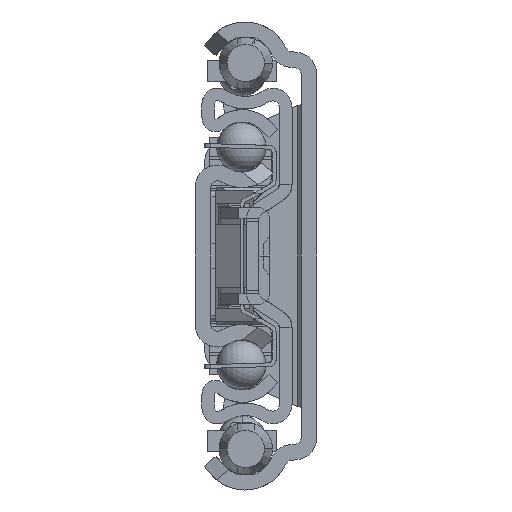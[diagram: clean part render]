
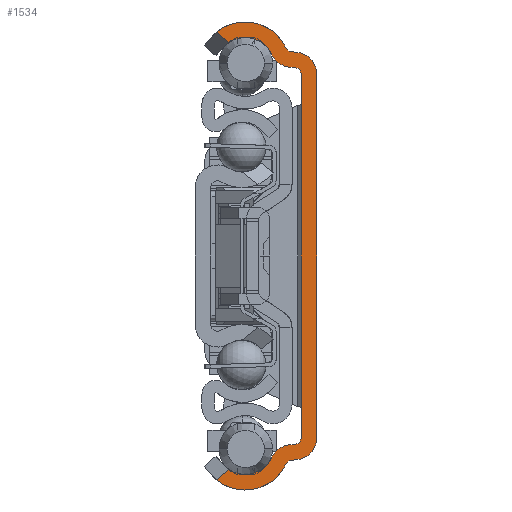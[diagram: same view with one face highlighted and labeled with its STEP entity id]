
A CAD part, left-side view. The second image highlights one B-rep face of the part: STEP entity #1534.
In plain terms, the highlighted planar face has unit normal (-1, 0, 0).
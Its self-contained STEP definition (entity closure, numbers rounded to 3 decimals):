
#1=DIRECTION('',(0.,-0.769,-0.639));
#2=VECTOR('',#1,2.575);
#3=CARTESIAN_POINT('',(0.,16.079,36.021));
#4=LINE('',#3,#2);
#5=CARTESIAN_POINT('',(0.,11.5,30.4));
#6=DIRECTION('',(1.,0.,0.));
#7=DIRECTION('',(0.,0.632,0.775));
#8=AXIS2_PLACEMENT_3D('',#5,#6,#7);
#10=DIRECTION('',(0.,-0.996,-0.087));
#11=VECTOR('',#10,0.904);
#12=CARTESIAN_POINT('',(0.,4.095,32.858));
#13=LINE('',#12,#11);
#14=CARTESIAN_POINT('',(0.,3.5,29.293));
#15=DIRECTION('',(-1.,0.,0.));
#16=DIRECTION('',(0.,-1.,0.));
#17=AXIS2_PLACEMENT_3D('',#14,#15,#16);
#19=DIRECTION('',(0.,0.,-1.));
#20=VECTOR('',#19,58.586);
#21=CARTESIAN_POINT('',(0.,0.,29.293));
#22=LINE('',#21,#20);
#23=CARTESIAN_POINT('',(0.,3.5,-29.293));
#24=DIRECTION('',(-1.,0.,0.));
#25=DIRECTION('',(0.,-0.087,-0.996));
#26=AXIS2_PLACEMENT_3D('',#23,#24,#25);
#28=DIRECTION('',(0.,0.996,-0.087));
#29=VECTOR('',#28,0.904);
#30=CARTESIAN_POINT('',(0.,3.195,-32.78));
#31=LINE('',#30,#29);
#32=CARTESIAN_POINT('',(0.,11.5,-30.4));
#33=DIRECTION('',(1.,0.,0.));
#34=DIRECTION('',(0.,-0.908,-0.419));
#35=AXIS2_PLACEMENT_3D('',#32,#33,#34);
#37=DIRECTION('',(0.,0.769,-0.639));
#38=VECTOR('',#37,2.575);
#39=CARTESIAN_POINT('',(0.,14.098,-34.377));
#40=LINE('',#39,#38);
#41=CARTESIAN_POINT('',(0.,11.5,-30.4));
#42=DIRECTION('',(-1.,0.,0.));
#43=DIRECTION('',(0.,0.547,-0.837));
#44=AXIS2_PLACEMENT_3D('',#41,#42,#43);
#46=CARTESIAN_POINT('',(0.,4.008,-33.854));
#47=DIRECTION('',(-1.,0.,0.));
#48=DIRECTION('',(0.,0.087,0.996));
#49=AXIS2_PLACEMENT_3D('',#46,#47,#48);
#51=DIRECTION('',(0.,-0.996,0.087));
#52=VECTOR('',#51,0.904);
#53=CARTESIAN_POINT('',(0.,4.313,-30.368));
#54=LINE('',#53,#52);
#55=DIRECTION('',(0.,0.,1.));
#56=VECTOR('',#55,58.586);
#57=CARTESIAN_POINT('',(0.,2.5,-29.293));
#58=LINE('',#57,#56);
#59=DIRECTION('',(0.,0.996,0.087));
#60=VECTOR('',#59,0.904);
#61=CARTESIAN_POINT('',(0.,3.413,30.289));
#62=LINE('',#61,#60);
#63=CARTESIAN_POINT('',(0.,4.008,33.854));
#64=DIRECTION('',(-1.,0.,0.));
#65=DIRECTION('',(0.,0.908,-0.419));
#66=AXIS2_PLACEMENT_3D('',#63,#64,#65);
#68=CARTESIAN_POINT('',(0.,11.5,30.4));
#69=DIRECTION('',(-1.,0.,0.));
#70=DIRECTION('',(0.,-0.908,0.419));
#71=AXIS2_PLACEMENT_3D('',#68,#69,#70);
#73=CARTESIAN_POINT('',(0.,14.098,34.377));
#121=CARTESIAN_POINT('',(0.,3.5,29.293));
#122=DIRECTION('',(1.,0.,0.));
#123=DIRECTION('',(0.,-0.087,0.996));
#124=AXIS2_PLACEMENT_3D('',#121,#122,#123);
#704=CARTESIAN_POINT('',(0.,16.079,36.021));
#770=CARTESIAN_POINT('',(0.,16.079,
-36.021));
#824=CARTESIAN_POINT('',(0.,14.098,
-34.377));
#1113=CARTESIAN_POINT('',(0.,3.5,-29.293));
#1114=DIRECTION('',(1.,0.,0.));
#1115=DIRECTION('',(0.,-1.,0.));
#1116=AXIS2_PLACEMENT_3D('',#1113,#1114,#1115);
#1123=CARTESIAN_POINT('',(0.,4.008,-33.854));
#1124=DIRECTION('',(1.,0.,0.));
#1125=DIRECTION('',(0.,0.908,0.419));
#1126=AXIS2_PLACEMENT_3D('',#1123,#1124,#1125);
#1141=CARTESIAN_POINT('',(0.,4.008,33.854));
#1142=DIRECTION('',(1.,0.,0.));
#1143=DIRECTION('',(0.,0.087,-0.996));
#1144=AXIS2_PLACEMENT_3D('',#1141,#1142,#1143);
#1159=CARTESIAN_POINT('',(0.,2.5,-29.293));
#1160=CARTESIAN_POINT('',(0.,2.5,29.293));
#1161=VERTEX_POINT('',#1159);
#1162=VERTEX_POINT('',#1160);
#1163=CARTESIAN_POINT('',(0.,3.413,-30.289));
#1164=VERTEX_POINT('',#1163);
#1165=CARTESIAN_POINT('',(0.,3.413,30.289));
#1166=VERTEX_POINT('',#1165);
#1167=CARTESIAN_POINT('',(0.,4.095,32.858));
#1168=CARTESIAN_POINT('',(0.,4.916,33.436));
#1169=VERTEX_POINT('',#1167);
#1170=VERTEX_POINT('',#1168);
#1171=CARTESIAN_POINT('',(0.,4.916,-33.436));
#1172=CARTESIAN_POINT('',(0.,4.095,-32.858));
#1173=VERTEX_POINT('',#1171);
#1174=VERTEX_POINT('',#1172);
#1175=CARTESIAN_POINT('',(0.,4.313,-30.368));
#1176=CARTESIAN_POINT('',(0.,7.186,-32.389));
#1177=VERTEX_POINT('',#1175);
#1178=VERTEX_POINT('',#1176);
#1179=CARTESIAN_POINT('',(0.,7.186,32.389));
#1180=CARTESIAN_POINT('',(0.,4.313,30.368));
#1181=VERTEX_POINT('',#1179);
#1182=VERTEX_POINT('',#1180);
#1183=CARTESIAN_POINT('',(0.,0.,29.293));
#1184=CARTESIAN_POINT('',(0.,3.195,32.78));
#1185=VERTEX_POINT('',#1183);
#1186=VERTEX_POINT('',#1184);
#1187=CARTESIAN_POINT('',(0.,3.195,-32.78));
#1188=CARTESIAN_POINT('',(0.,0.,-29.293));
#1189=VERTEX_POINT('',#1187);
#1190=VERTEX_POINT('',#1188);
#1437=VERTEX_POINT('',#73);
#1445=VERTEX_POINT('',#704);
#1446=VERTEX_POINT('',#770);
#1454=VERTEX_POINT('',#824);
#1487=CARTESIAN_POINT('',(0.,0.,0.));
#1488=DIRECTION('',(1.,0.,0.));
#1489=DIRECTION('',(0.,-1.,0.));
#1490=AXIS2_PLACEMENT_3D('',#1487,#1488,#1489);
#1491=PLANE('',#1490);
#1493=ORIENTED_EDGE('',*,*,#1492,.F.);
#1495=ORIENTED_EDGE('',*,*,#1494,.T.);
#1497=ORIENTED_EDGE('',*,*,#1496,.F.);
#1499=ORIENTED_EDGE('',*,*,#1498,.T.);
#1501=ORIENTED_EDGE('',*,*,#1500,.F.);
#1503=ORIENTED_EDGE('',*,*,#1502,.T.);
#1505=ORIENTED_EDGE('',*,*,#1504,.F.);
#1507=ORIENTED_EDGE('',*,*,#1506,.T.);
#1509=ORIENTED_EDGE('',*,*,#1508,.F.);
#1511=ORIENTED_EDGE('',*,*,#1510,.T.);
#1513=ORIENTED_EDGE('',*,*,#1512,.F.);
#1515=ORIENTED_EDGE('',*,*,#1514,.T.);
#1517=ORIENTED_EDGE('',*,*,#1516,.F.);
#1519=ORIENTED_EDGE('',*,*,#1518,.T.);
#1521=ORIENTED_EDGE('',*,*,#1520,.F.);
#1523=ORIENTED_EDGE('',*,*,#1522,.T.);
#1525=ORIENTED_EDGE('',*,*,#1524,.F.);
#1527=ORIENTED_EDGE('',*,*,#1526,.T.);
#1529=ORIENTED_EDGE('',*,*,#1528,.F.);
#1531=ORIENTED_EDGE('',*,*,#1530,.T.);
#1532=EDGE_LOOP('',(#1493,#1495,#1497,#1499,#1501,#1503,#1505,#1507,#1509,#1511,
#1513,#1515,#1517,#1519,#1521,#1523,#1525,#1527,#1529,#1531));
#1533=FACE_OUTER_BOUND('',#1532,.F.);
#9=CIRCLE('',#8,7.25);
#18=CIRCLE('',#17,3.5);
#27=CIRCLE('',#26,3.5);
#36=CIRCLE('',#35,7.25);
#45=CIRCLE('',#44,4.75);
#50=CIRCLE('',#49,3.5);
#67=CIRCLE('',#66,3.5);
#72=CIRCLE('',#71,4.75);
#125=CIRCLE('',#124,1.);
#1117=CIRCLE('',#1116,1.);
#1127=CIRCLE('',#1126,1.);
#1145=CIRCLE('',#1144,1.);
#1492=EDGE_CURVE('',#1445,#1437,#4,.T.);
#1494=EDGE_CURVE('',#1445,#1170,#9,.T.);
#1496=EDGE_CURVE('',#1169,#1170,#1145,.T.);
#1498=EDGE_CURVE('',#1169,#1186,#13,.T.);
#1500=EDGE_CURVE('',#1185,#1186,#18,.T.);
#1502=EDGE_CURVE('',#1185,#1190,#22,.T.);
#1504=EDGE_CURVE('',#1189,#1190,#27,.T.);
#1506=EDGE_CURVE('',#1189,#1174,#31,.T.);
#1508=EDGE_CURVE('',#1173,#1174,#1127,.T.);
#1510=EDGE_CURVE('',#1173,#1446,#36,.T.);
#1512=EDGE_CURVE('',#1454,#1446,#40,.T.);
#1514=EDGE_CURVE('',#1454,#1178,#45,.T.);
#1516=EDGE_CURVE('',#1177,#1178,#50,.T.);
#1518=EDGE_CURVE('',#1177,#1164,#54,.T.);
#1520=EDGE_CURVE('',#1161,#1164,#1117,.T.);
#1522=EDGE_CURVE('',#1161,#1162,#58,.T.);
#1524=EDGE_CURVE('',#1166,#1162,#125,.T.);
#1526=EDGE_CURVE('',#1166,#1182,#62,.T.);
#1528=EDGE_CURVE('',#1181,#1182,#67,.T.);
#1530=EDGE_CURVE('',#1181,#1437,#72,.T.);
#1534=ADVANCED_FACE('',(#1533),#1491,.F.);
